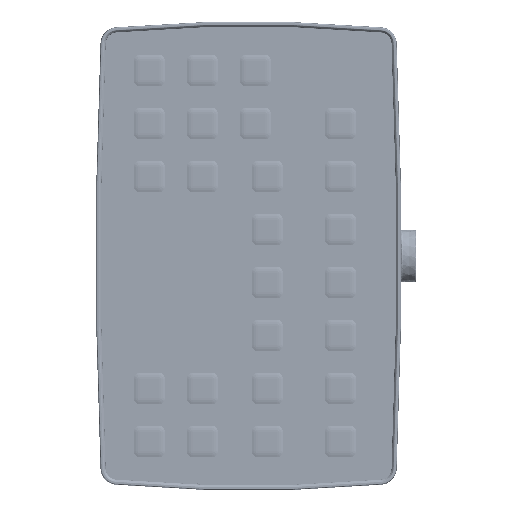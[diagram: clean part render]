
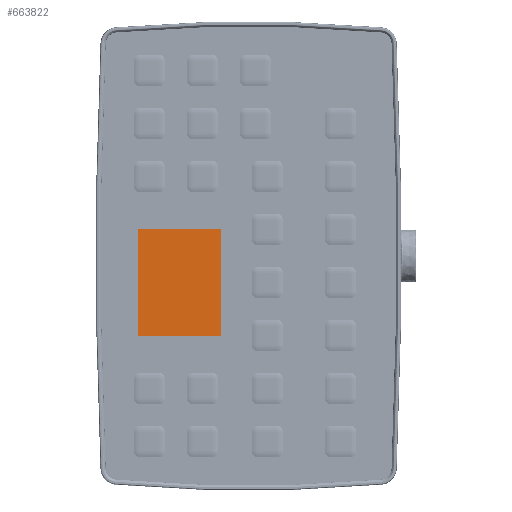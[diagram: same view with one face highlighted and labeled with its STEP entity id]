
A CAD part, top view. The second image highlights one B-rep face of the part: STEP entity #663822.
In plain terms, the highlighted planar face has unit normal (0, 0, 1).
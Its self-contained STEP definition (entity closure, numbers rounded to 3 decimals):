
#650669=DIRECTION('',(-1.,0.,0.));
#650670=VECTOR('',#650669,39.42);
#650671=CARTESIAN_POINT('',(-13.29,12.98,5.78));
#650672=LINE('',#650671,#650670);
#650673=DIRECTION('',(0.,1.,0.));
#650674=VECTOR('',#650673,51.31);
#650675=CARTESIAN_POINT('',(-13.29,-38.33,5.78));
#650676=LINE('',#650675,#650674);
#650677=DIRECTION('',(1.,0.,0.));
#650678=VECTOR('',#650677,39.42);
#650679=CARTESIAN_POINT('',(-52.71,-38.33,5.78));
#650680=LINE('',#650679,#650678);
#650681=DIRECTION('',(0.,-1.,0.));
#650682=VECTOR('',#650681,51.31);
#650683=CARTESIAN_POINT('',(-52.71,12.98,5.78));
#650684=LINE('',#650683,#650682);
#651237=CARTESIAN_POINT('',(-13.29,12.98,5.78));
#651238=CARTESIAN_POINT('',(-52.71,12.98,5.78));
#651239=VERTEX_POINT('',#651237);
#651240=VERTEX_POINT('',#651238);
#651241=CARTESIAN_POINT('',(-52.71,-38.33,5.78));
#651242=VERTEX_POINT('',#651241);
#651243=CARTESIAN_POINT('',(-13.29,-38.33,5.78));
#651244=VERTEX_POINT('',#651243);
#663811=CARTESIAN_POINT('',(0.,0.,5.78));
#663812=DIRECTION('',(0.,0.,1.));
#663813=DIRECTION('',(0.,1.,0.));
#663814=AXIS2_PLACEMENT_3D('',#663811,#663812,#663813);
#663815=PLANE('',#663814);
#663816=ORIENTED_EDGE('',*,*,#663763,.F.);
#663817=ORIENTED_EDGE('',*,*,#663778,.F.);
#663818=ORIENTED_EDGE('',*,*,#663792,.F.);
#663819=ORIENTED_EDGE('',*,*,#663805,.F.);
#663820=EDGE_LOOP('',(#663816,#663817,#663818,#663819));
#663821=FACE_OUTER_BOUND('',#663820,.F.);
#663763=EDGE_CURVE('',#651239,#651240,#650672,.T.);
#663778=EDGE_CURVE('',#651244,#651239,#650676,.T.);
#663792=EDGE_CURVE('',#651242,#651244,#650680,.T.);
#663805=EDGE_CURVE('',#651240,#651242,#650684,.T.);
#663822=ADVANCED_FACE('',(#663821),#663815,.T.);
